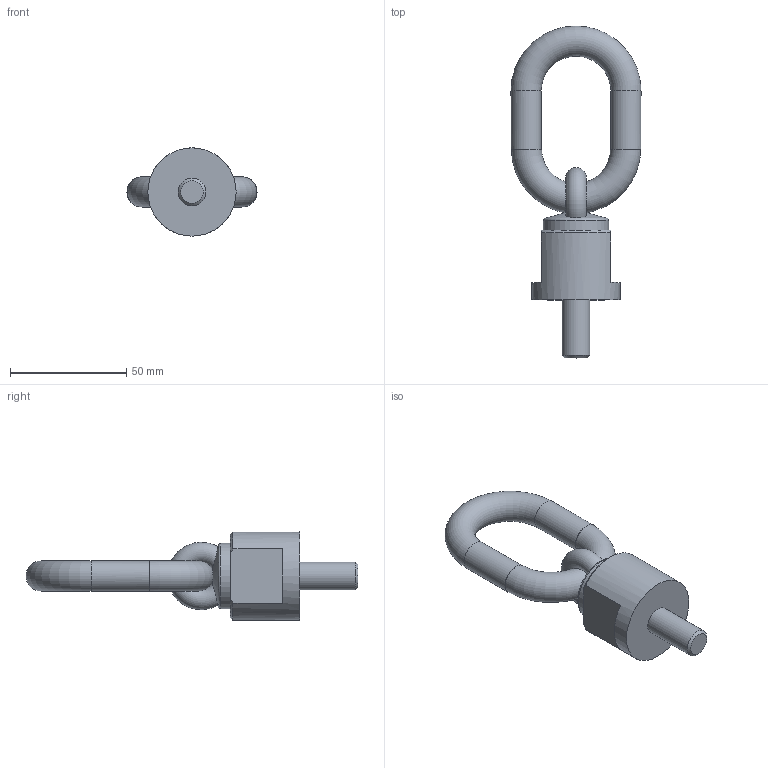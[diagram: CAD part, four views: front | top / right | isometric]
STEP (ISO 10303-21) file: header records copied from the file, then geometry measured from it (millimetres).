
FILE_DESCRIPTION( ( 'STEP AP203' ), '1' );
FILE_NAME( 'p:/temp/worker_4/temp/app_48_0201906261614280760589610e898ce_000000_00_00_000000/format_0/C8000051225.stp', '2019-06-26T14:14:28', ( '' ), ( '' ), ' ', 'PARTsolutions', ' ' );
FILE_SCHEMA( ( 'CONFIG_CONTROL_DESIGN' ) );
Length unit declared in the file: millimetre
Products named in the file (1): _C8000051225
Bounding box: 56 x 143 x 38 mm (x, y, z)
Volume: 64894.2 mm3; surface area: 15273.6 mm2
Topology: 1 solids, 1 shells, 25 faces, 65 edges, 40 vertices
Faces by surface type: plane 12, cylinder 5, torus 4, cone 4
Full cylindrical faces by diameter (mm): 12 x1, 13 x2, 28.2 x1, 38 x1
Entity records: 1040 total; most frequent: CARTESIAN_POINT 483, DIRECTION 110, ORIENTED_EDGE 86, AXIS2_PLACEMENT_3D 51, EDGE_CURVE 43, EDGE_LOOP 42, FACE_OUTER_BOUND 34, VERTEX_POINT 32
